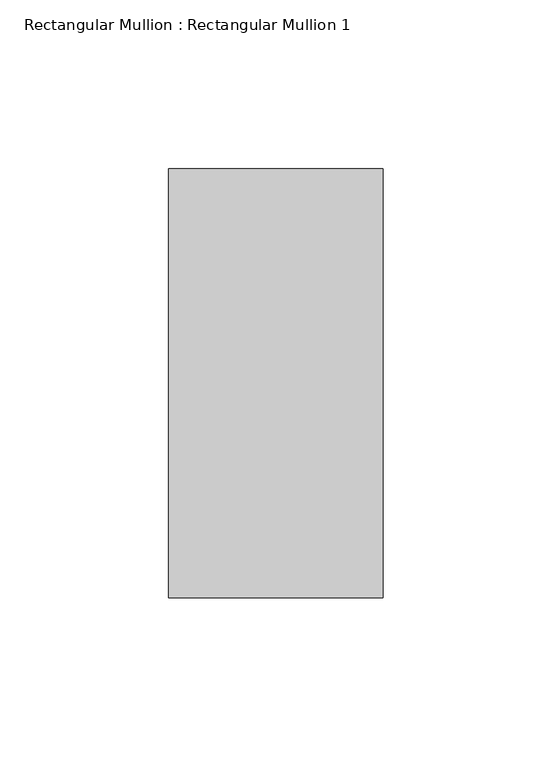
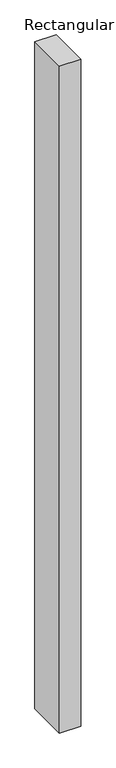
"""IFC4 building model written with IfcOpenShell, lengths in millimetres: member geometry, Rectangular Mullion : Rectangular Mullion 1."""

from ifc_helpers import new_model, si_unit, frame, origin, place, context, project, spatial, polyline, outline, extrude, source, transform, mapped, element, save


def rectangular_mullion_rectangular_mullion_1_1122ec7b(model_context):
    return source(origin(), model_context, "Body", "SweptSolid", [
        extrude(outline(polyline([(31.75, 63.5), (31.75, -63.5), (-31.75, -63.5), (-31.75, 63.5), (31.75, 63.5)])), frame((0.0, 0.0, -2104.5714285), z_axis=(0.0, 0.0, 1.0), x_axis=(1.0, 0.0, 0.0)), (0.0, 0.0, 1.0), 2104.5714285),
    ])


if __name__ == "__main__":
    model = new_model("IFC4")
    model_context = context("Model", 3, world=origin())
    ifc_project = project(units=[si_unit("LENGTHUNIT", "METRE", prefix="MILLI")], contexts=[model_context])
    site = spatial("IfcSite", under=ifc_project)
    building = spatial("IfcBuilding", under=site)
    placement = place(None, origin())
    rectangular_mullion_rectangular_mullion_1_shape = rectangular_mullion_rectangular_mullion_1_1122ec7b(model_context)
    element("IfcMember", 1, ObjectType="Rectangular Mullion : Rectangular Mullion 1", at=placement, inside=building, context=model_context, shape_type="MappedRepresentation", body=[
        mapped(rectangular_mullion_rectangular_mullion_1_shape, transform((0.0, 0.0, 0.0), x_axis=(1.0, 0.0, 0.0), y_axis=(0.0, 1.0, 0.0), z_axis=(0.0, 0.0, 1.0))),
    ])
    save(model, "model.ifc")
